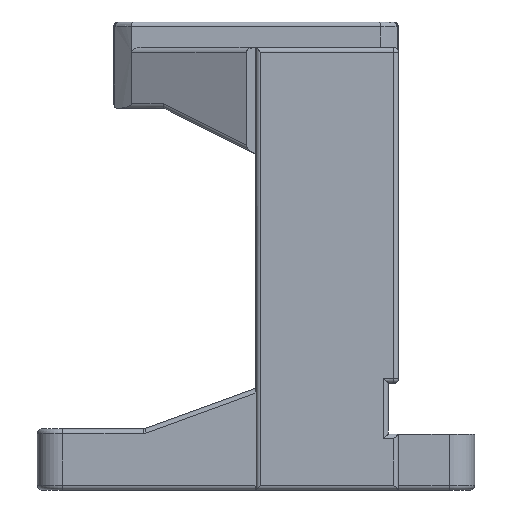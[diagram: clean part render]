
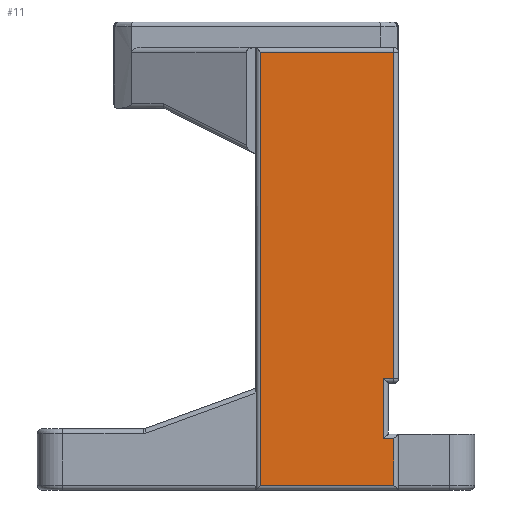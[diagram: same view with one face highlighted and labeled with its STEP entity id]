
A CAD part, left-side view. The second image highlights one B-rep face of the part: STEP entity #11.
In plain terms, the highlighted planar face has unit normal (-1, 0, 0).
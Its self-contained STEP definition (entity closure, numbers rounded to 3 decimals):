
#11 = ADVANCED_FACE ( 'NONE', ( #7017 ), #3676, .F. ) ;
#1676 = EDGE_LOOP ( 'NONE', ( #4739, #4741, #4740, #4742, #4743, #4744, #4745, #4746 ) ) ;
#1844 = VECTOR ( 'NONE', #5825, 1000. ) ;
#1971 = VECTOR ( 'NONE', #5496, 1000. ) ;
#1972 = VECTOR ( 'NONE', #6086, 1000. ) ;
#1979 = VECTOR ( 'NONE', #5362, 1000. ) ;
#1986 = VECTOR ( 'NONE', #6067, 1000. ) ;
#1988 = VECTOR ( 'NONE', #6069, 1000. ) ;
#1990 = VECTOR ( 'NONE', #5769, 1000. ) ;
#2000 = VECTOR ( 'NONE', #5826, 1000. ) ;
#3583 = EDGE_CURVE ( 'NONE', #3846, #3848, #5716, .T. ) ;
#3584 = EDGE_CURVE ( 'NONE', #3847, #3846, #6178, .T. ) ;
#3585 = EDGE_CURVE ( 'NONE', #3848, #3849, #5339, .T. ) ;
#3586 = EDGE_CURVE ( 'NONE', #3849, #3879, #5229, .T. ) ;
#3587 = EDGE_CURVE ( 'NONE', #3879, #3854, #5408, .T. ) ;
#3588 = EDGE_CURVE ( 'NONE', #3854, #3861, #5880, .T. ) ;
#3589 = EDGE_CURVE ( 'NONE', #3861, #3845, #5179, .T. ) ;
#3590 = EDGE_CURVE ( 'NONE', #3845, #3847, #5866, .T. ) ;
#3673 = DIRECTION ( 'NONE',  ( 0., -1., 0. ) ) ;
#3674 = DIRECTION ( 'NONE',  ( 1., 0., 0. ) ) ;
#3675 = CARTESIAN_POINT ( 'NONE',  ( -44., -28., 81. ) ) ;
#3676 = PLANE ( 'NONE',  #7060 ) ;
#3845 = VERTEX_POINT ( 'NONE', #6065 ) ;
#3846 = VERTEX_POINT ( 'NONE', #5726 ) ;
#3847 = VERTEX_POINT ( 'NONE', #5241 ) ;
#3848 = VERTEX_POINT ( 'NONE', #6071 ) ;
#3849 = VERTEX_POINT ( 'NONE', #5511 ) ;
#3854 = VERTEX_POINT ( 'NONE', #5386 ) ;
#3861 = VERTEX_POINT ( 'NONE', #5382 ) ;
#3879 = VERTEX_POINT ( 'NONE', #6003 ) ;
#4739 = ORIENTED_EDGE ( 'NONE', *, *, #3584, .T. ) ;
#4740 = ORIENTED_EDGE ( 'NONE', *, *, #3585, .T. ) ;
#4741 = ORIENTED_EDGE ( 'NONE', *, *, #3583, .T. ) ;
#4742 = ORIENTED_EDGE ( 'NONE', *, *, #3586, .T. ) ;
#4743 = ORIENTED_EDGE ( 'NONE', *, *, #3587, .T. ) ;
#4744 = ORIENTED_EDGE ( 'NONE', *, *, #3588, .T. ) ;
#4745 = ORIENTED_EDGE ( 'NONE', *, *, #3589, .T. ) ;
#4746 = ORIENTED_EDGE ( 'NONE', *, *, #3590, .T. ) ;
#5179 = LINE ( 'NONE', #5725, #1844 ) ;
#5229 = LINE ( 'NONE', #5887, #1990 ) ;
#5241 = CARTESIAN_POINT ( 'NONE',  ( -44., -27.1, -5.1 ) ) ;
#5339 = LINE ( 'NONE', #5480, #1986 ) ;
#5362 = DIRECTION ( 'NONE',  ( 0., 1., 0. ) ) ;
#5382 = CARTESIAN_POINT ( 'NONE',  ( -44., -0.9, 80.1 ) ) ;
#5386 = CARTESIAN_POINT ( 'NONE',  ( -44., -27.1, 80.1 ) ) ;
#5408 = LINE ( 'NONE', #5827, #2000 ) ;
#5480 = CARTESIAN_POINT ( 'NONE',  ( -44., -25.1, 81. ) ) ;
#5496 = DIRECTION ( 'NONE',  ( 0., 1., 0. ) ) ;
#5511 = CARTESIAN_POINT ( 'NONE',  ( -44., -25.1, 15.9 ) ) ;
#5713 = CARTESIAN_POINT ( 'NONE',  ( -44., 0., 80.1 ) ) ;
#5716 = LINE ( 'NONE', #5847, #1971 ) ;
#5725 = CARTESIAN_POINT ( 'NONE',  ( -44., -0.9, 81. ) ) ;
#5726 = CARTESIAN_POINT ( 'NONE',  ( -44., -27.1, 4.1 ) ) ;
#5769 = DIRECTION ( 'NONE',  ( 0., -1., 0. ) ) ;
#5825 = DIRECTION ( 'NONE',  ( 0., 0., -1. ) ) ;
#5826 = DIRECTION ( 'NONE',  ( 0., 0., 1. ) ) ;
#5827 = CARTESIAN_POINT ( 'NONE',  ( -44., -27.1, 81. ) ) ;
#5847 = CARTESIAN_POINT ( 'NONE',  ( -44., -28., 4.1 ) ) ;
#5850 = CARTESIAN_POINT ( 'NONE',  ( -44., -28., -5.1 ) ) ;
#5866 = LINE ( 'NONE', #5850, #1972 ) ;
#5880 = LINE ( 'NONE', #5713, #1979 ) ;
#5887 = CARTESIAN_POINT ( 'NONE',  ( -44., -28., 15.9 ) ) ;
#6003 = CARTESIAN_POINT ( 'NONE',  ( -44., -27.1, 15.9 ) ) ;
#6062 = CARTESIAN_POINT ( 'NONE',  ( -44., -27.1, 5. ) ) ;
#6065 = CARTESIAN_POINT ( 'NONE',  ( -44., -0.9, -5.1 ) ) ;
#6067 = DIRECTION ( 'NONE',  ( 0., 0., 1. ) ) ;
#6069 = DIRECTION ( 'NONE',  ( 0., 0., 1. ) ) ;
#6071 = CARTESIAN_POINT ( 'NONE',  ( -44., -25.1, 4.1 ) ) ;
#6086 = DIRECTION ( 'NONE',  ( 0., -1., 0. ) ) ;
#6178 = LINE ( 'NONE', #6062, #1988 ) ;
#7017 = FACE_OUTER_BOUND ( 'NONE', #1676, .T. ) ;
#7060 = AXIS2_PLACEMENT_3D ( 'NONE', #3675, #3674, #3673 ) ;
